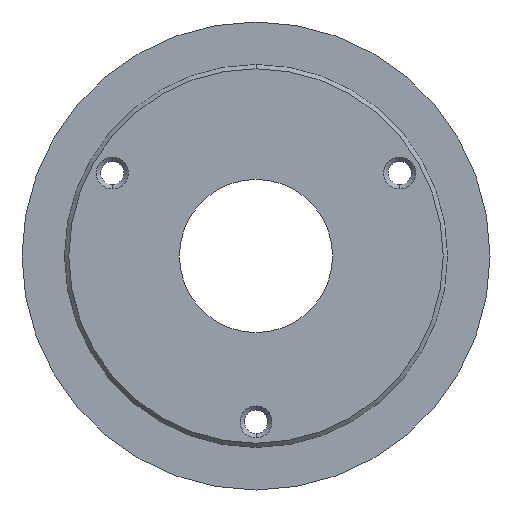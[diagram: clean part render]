
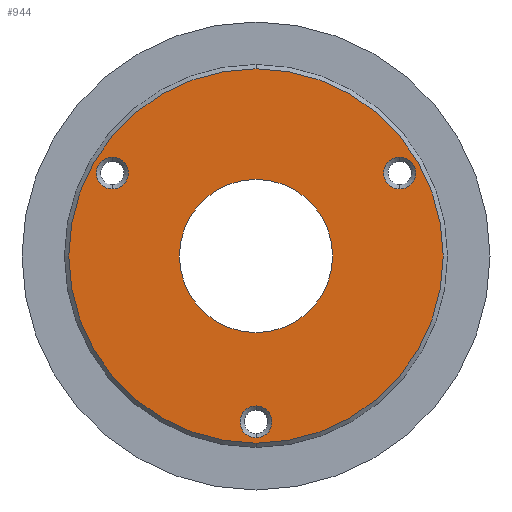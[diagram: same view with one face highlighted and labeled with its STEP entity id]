
A CAD part, front view. The second image highlights one B-rep face of the part: STEP entity #944.
In plain terms, the highlighted planar face has unit normal (0, -1, 0).
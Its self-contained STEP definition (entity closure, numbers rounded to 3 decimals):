
#10 = CIRCLE ( 'NONE', #171, 44. ) ;
#40 = DIRECTION ( 'NONE',  ( 0., 0., 1. ) ) ;
#44 = CARTESIAN_POINT ( 'NONE',  ( 0., 0., -18. ) ) ;
#48 = EDGE_CURVE ( 'NONE', #733, #892, #10, .T. ) ;
#55 = CIRCLE ( 'NONE', #1141, 18. ) ;
#108 = ORIENTED_EDGE ( 'NONE', *, *, #332, .F. ) ;
#109 = CIRCLE ( 'NONE', #672, 18. ) ;
#128 = EDGE_LOOP ( 'NONE', ( #659, #108 ) ) ;
#164 = FACE_BOUND ( 'NONE', #353, .T. ) ;
#171 = AXIS2_PLACEMENT_3D ( 'NONE', #1142, #187, #551 ) ;
#187 = DIRECTION ( 'NONE',  ( 0., -1., 0. ) ) ;
#194 = EDGE_CURVE ( 'NONE', #1120, #722, #55, .T. ) ;
#202 = EDGE_LOOP ( 'NONE', ( #896, #987 ) ) ;
#244 = ORIENTED_EDGE ( 'NONE', *, *, #370, .T. ) ;
#258 = ORIENTED_EDGE ( 'NONE', *, *, #773, .T. ) ;
#263 = CIRCLE ( 'NONE', #543, 3.75 ) ;
#275 = DIRECTION ( 'NONE',  ( 0., 1., 0. ) ) ;
#325 = CIRCLE ( 'NONE', #647, 3.75 ) ;
#332 = EDGE_CURVE ( 'NONE', #722, #1120, #109, .T. ) ;
#353 = EDGE_LOOP ( 'NONE', ( #957, #681 ) ) ;
#354 = CARTESIAN_POINT ( 'NONE',  ( 0., 0., 44. ) ) ;
#370 = EDGE_CURVE ( 'NONE', #382, #968, #1111, .T. ) ;
#382 = VERTEX_POINT ( 'NONE', #1071 ) ;
#405 = CARTESIAN_POINT ( 'NONE',  ( 0., 0., -42.75 ) ) ;
#409 = FACE_BOUND ( 'NONE', #707, .T. ) ;
#434 = DIRECTION ( 'NONE',  ( 0., 1., 0. ) ) ;
#487 = CIRCLE ( 'NONE', #566, 44. ) ;
#496 = DIRECTION ( 'NONE',  ( 0., 0., 1. ) ) ;
#498 = DIRECTION ( 'NONE',  ( 0., 1., 0. ) ) ;
#512 = CARTESIAN_POINT ( 'NONE',  ( 0., 0., -44. ) ) ;
#520 = CARTESIAN_POINT ( 'NONE',  ( 0., 0., 18. ) ) ;
#525 = CARTESIAN_POINT ( 'NONE',  ( 0., 0., 0. ) ) ;
#531 = CIRCLE ( 'NONE', #1004, 3.75 ) ;
#543 = AXIS2_PLACEMENT_3D ( 'NONE', #931, #275, #40 ) ;
#548 = CARTESIAN_POINT ( 'NONE',  ( 0., 0., 0. ) ) ;
#551 = DIRECTION ( 'NONE',  ( 0., 0., 1. ) ) ;
#555 = DIRECTION ( 'NONE',  ( 0., -1., 0. ) ) ;
#566 = AXIS2_PLACEMENT_3D ( 'NONE', #620, #1042, #677 ) ;
#586 = DIRECTION ( 'NONE',  ( 0., 1., 0. ) ) ;
#620 = CARTESIAN_POINT ( 'NONE',  ( 0., 0., 0. ) ) ;
#629 = EDGE_CURVE ( 'NONE', #965, #942, #531, .T. ) ;
#647 = AXIS2_PLACEMENT_3D ( 'NONE', #692, #434, #1063 ) ;
#659 = ORIENTED_EDGE ( 'NONE', *, *, #194, .F. ) ;
#661 = FACE_BOUND ( 'NONE', #1147, .T. ) ;
#672 = AXIS2_PLACEMENT_3D ( 'NONE', #525, #1140, #977 ) ;
#677 = DIRECTION ( 'NONE',  ( 0., 0., 1. ) ) ;
#681 = ORIENTED_EDGE ( 'NONE', *, *, #629, .T. ) ;
#692 = CARTESIAN_POINT ( 'NONE',  ( 0., 0., -39. ) ) ;
#695 = AXIS2_PLACEMENT_3D ( 'NONE', #1099, #586, #739 ) ;
#707 = EDGE_LOOP ( 'NONE', ( #1166, #1014 ) ) ;
#722 = VERTEX_POINT ( 'NONE', #520 ) ;
#733 = VERTEX_POINT ( 'NONE', #512 ) ;
#735 = AXIS2_PLACEMENT_3D ( 'NONE', #753, #1005, #841 ) ;
#739 = DIRECTION ( 'NONE',  ( 0., 0., 1. ) ) ;
#753 = CARTESIAN_POINT ( 'NONE',  ( 33.775, 0., 19.5 ) ) ;
#773 = EDGE_CURVE ( 'NONE', #968, #382, #880, .T. ) ;
#808 = VERTEX_POINT ( 'NONE', #922 ) ;
#833 = DIRECTION ( 'NONE',  ( 0., 0., 1. ) ) ;
#838 = DIRECTION ( 'NONE',  ( 0., 0., -1. ) ) ;
#841 = DIRECTION ( 'NONE',  ( 0., 0., 1. ) ) ;
#869 = CARTESIAN_POINT ( 'NONE',  ( 33.775, 0., 23.25 ) ) ;
#870 = DIRECTION ( 'NONE',  ( 0., 1., 0. ) ) ;
#877 = FACE_BOUND ( 'NONE', #128, .T. ) ;
#879 = AXIS2_PLACEMENT_3D ( 'NONE', #990, #961, #964 ) ;
#880 = CIRCLE ( 'NONE', #879, 3.75 ) ;
#884 = CARTESIAN_POINT ( 'NONE',  ( 0., 0., -35.25 ) ) ;
#886 = CARTESIAN_POINT ( 'NONE',  ( 0., 0., -39. ) ) ;
#892 = VERTEX_POINT ( 'NONE', #354 ) ;
#896 = ORIENTED_EDGE ( 'NONE', *, *, #1065, .T. ) ;
#900 = CIRCLE ( 'NONE', #735, 3.75 ) ;
#922 = CARTESIAN_POINT ( 'NONE',  ( 33.775, 0., 15.75 ) ) ;
#927 = EDGE_CURVE ( 'NONE', #808, #1171, #900, .T. ) ;
#931 = CARTESIAN_POINT ( 'NONE',  ( 33.775, 0., 19.5 ) ) ;
#942 = VERTEX_POINT ( 'NONE', #405 ) ;
#944 = ADVANCED_FACE ( 'NONE', ( #661, #409, #164, #1136, #877 ), #1055, .F. ) ;
#957 = ORIENTED_EDGE ( 'NONE', *, *, #997, .T. ) ;
#961 = DIRECTION ( 'NONE',  ( 0., 1., 0. ) ) ;
#964 = DIRECTION ( 'NONE',  ( 0., 0., 1. ) ) ;
#965 = VERTEX_POINT ( 'NONE', #884 ) ;
#968 = VERTEX_POINT ( 'NONE', #1127 ) ;
#977 = DIRECTION ( 'NONE',  ( 0., 0., -1. ) ) ;
#987 = ORIENTED_EDGE ( 'NONE', *, *, #48, .T. ) ;
#990 = CARTESIAN_POINT ( 'NONE',  ( -33.775, 0., 19.5 ) ) ;
#997 = EDGE_CURVE ( 'NONE', #942, #965, #325, .T. ) ;
#1004 = AXIS2_PLACEMENT_3D ( 'NONE', #886, #870, #833 ) ;
#1005 = DIRECTION ( 'NONE',  ( 0., 1., 0. ) ) ;
#1014 = ORIENTED_EDGE ( 'NONE', *, *, #1076, .T. ) ;
#1023 = AXIS2_PLACEMENT_3D ( 'NONE', #1058, #498, #496 ) ;
#1042 = DIRECTION ( 'NONE',  ( 0., -1., 0. ) ) ;
#1055 = PLANE ( 'NONE',  #695 ) ;
#1058 = CARTESIAN_POINT ( 'NONE',  ( -33.775, 0., 19.5 ) ) ;
#1063 = DIRECTION ( 'NONE',  ( 0., 0., 1. ) ) ;
#1065 = EDGE_CURVE ( 'NONE', #892, #733, #487, .T. ) ;
#1071 = CARTESIAN_POINT ( 'NONE',  ( -33.775, 0., 15.75 ) ) ;
#1076 = EDGE_CURVE ( 'NONE', #1171, #808, #263, .T. ) ;
#1099 = CARTESIAN_POINT ( 'NONE',  ( -18., 0., 0. ) ) ;
#1111 = CIRCLE ( 'NONE', #1023, 3.75 ) ;
#1120 = VERTEX_POINT ( 'NONE', #44 ) ;
#1127 = CARTESIAN_POINT ( 'NONE',  ( -33.775, 0., 23.25 ) ) ;
#1136 = FACE_OUTER_BOUND ( 'NONE', #202, .T. ) ;
#1140 = DIRECTION ( 'NONE',  ( 0., -1., 0. ) ) ;
#1141 = AXIS2_PLACEMENT_3D ( 'NONE', #548, #555, #838 ) ;
#1142 = CARTESIAN_POINT ( 'NONE',  ( 0., 0., 0. ) ) ;
#1147 = EDGE_LOOP ( 'NONE', ( #244, #258 ) ) ;
#1166 = ORIENTED_EDGE ( 'NONE', *, *, #927, .T. ) ;
#1171 = VERTEX_POINT ( 'NONE', #869 ) ;
